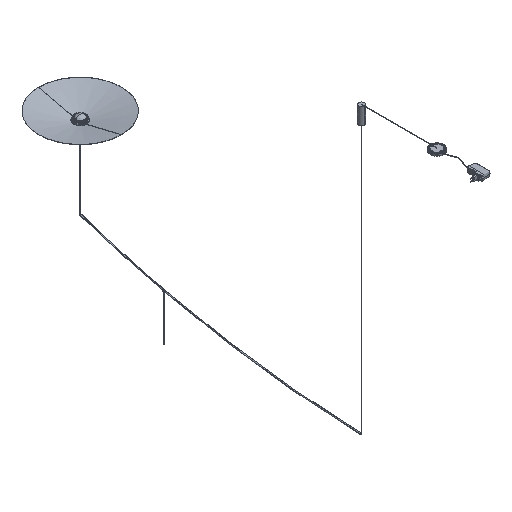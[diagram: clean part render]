
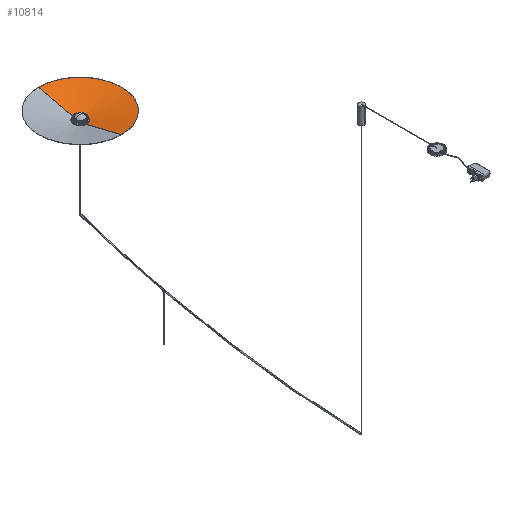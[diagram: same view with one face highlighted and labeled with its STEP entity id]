
A CAD part, isometric view. The second image highlights one B-rep face of the part: STEP entity #10814.
In plain terms, the highlighted conical face has half-angle 76.43 degrees and reference radius 157.821 mm.
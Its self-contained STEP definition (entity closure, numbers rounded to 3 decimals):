
#9582=DIRECTION('',(-0.972,-0.235,0.));
#9583=VECTOR('',#9582,240.363);
#9584=CARTESIAN_POINT('',(-40.995,61.216,
0.));
#9585=LINE('',#9584,#9583);
#9591=DIRECTION('',(-0.972,0.235,0.));
#9592=VECTOR('',#9591,240.363);
#9593=CARTESIAN_POINT('',(274.648,4.819,
0.));
#9594=LINE('',#9593,#9592);
#9600=CARTESIAN_POINT('',(0.,4.819,0.));
#9601=DIRECTION('',(0.,-1.,0.));
#9602=DIRECTION('',(-1.,0.,0.));
#9603=AXIS2_PLACEMENT_3D('',#9600,#9601,#9602);
#9605=CARTESIAN_POINT('',(0.,61.216,0.));
#9606=DIRECTION('',(0.,1.,0.));
#9607=DIRECTION('',(1.,0.,0.));
#9608=AXIS2_PLACEMENT_3D('',#9605,#9606,#9607);
#9723=CARTESIAN_POINT('',(-40.995,61.216,0.));
#9724=CARTESIAN_POINT('',(40.995,61.216,0.));
#9725=VERTEX_POINT('',#9723);
#9726=VERTEX_POINT('',#9724);
#9760=CARTESIAN_POINT('',(-274.648,4.819,0.));
#9762=VERTEX_POINT('',#9760);
#9764=CARTESIAN_POINT('',(274.648,4.819,
0.));
#9766=VERTEX_POINT('',#9764);
#10802=CARTESIAN_POINT('',(0.,33.017,0.));
#10803=DIRECTION('',(0.,-1.,0.));
#10804=DIRECTION('',(-1.,0.,0.));
#10805=AXIS2_PLACEMENT_3D('',#10802,#10803,#10804);
#10806=CONICAL_SURFACE('',#10805,157.822,76.43);
#10807=ORIENTED_EDGE('',*,*,#10795,.F.);
#10808=ORIENTED_EDGE('',*,*,#10766,.F.);
#10809=ORIENTED_EDGE('',*,*,#10792,.F.);
#10811=ORIENTED_EDGE('',*,*,#10810,.F.);
#10812=EDGE_LOOP('',(#10807,#10808,#10809,#10811));
#10813=FACE_OUTER_BOUND('',#10812,.F.);
#10814=ADVANCED_FACE('',(#10813),#10806,.F.);
#9604=CIRCLE('',#9603,274.648);
#9609=CIRCLE('',#9608,40.995);
#10766=EDGE_CURVE('',#9762,#9766,#9604,.T.);
#10792=EDGE_CURVE('',#9725,#9762,#9585,.T.);
#10795=EDGE_CURVE('',#9766,#9726,#9594,.T.);
#10810=EDGE_CURVE('',#9726,#9725,#9609,.T.);
